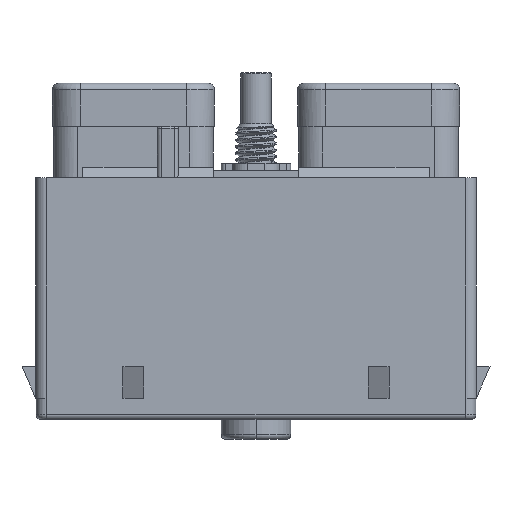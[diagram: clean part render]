
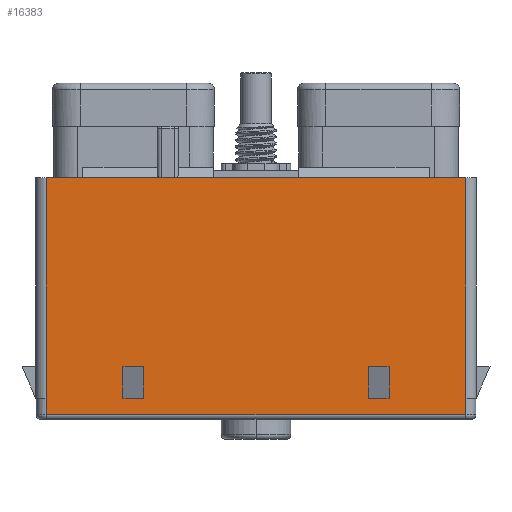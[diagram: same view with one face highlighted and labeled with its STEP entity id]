
A CAD part, front view. The second image highlights one B-rep face of the part: STEP entity #16383.
In plain terms, the highlighted planar face has unit normal (0, -1, 0).
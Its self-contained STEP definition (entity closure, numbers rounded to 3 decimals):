
#133=DIRECTION('',(0.,0.,1.));
#134=VECTOR('',#133,3.81);
#135=CARTESIAN_POINT('',(16.104,-14.58,-38.1));
#136=LINE('',#135,#134);
#137=DIRECTION('',(1.,0.,0.));
#138=VECTOR('',#137,2.54);
#139=CARTESIAN_POINT('',(13.564,-14.58,-34.29));
#140=LINE('',#139,#138);
#141=DIRECTION('',(0.,0.,1.));
#142=VECTOR('',#141,3.81);
#143=CARTESIAN_POINT('',(-13.564,-14.58,-38.1));
#144=LINE('',#143,#142);
#145=DIRECTION('',(1.,0.,0.));
#146=VECTOR('',#145,2.54);
#147=CARTESIAN_POINT('',(-16.104,-14.58,-34.29));
#148=LINE('',#147,#146);
#149=DIRECTION('',(-1.,0.,0.));
#150=VECTOR('',#149,50.648);
#151=CARTESIAN_POINT('',(25.324,-14.58,-40.132));
#152=LINE('',#151,#150);
#153=DIRECTION('',(0.,0.,1.));
#154=VECTOR('',#153,26.67);
#155=CARTESIAN_POINT('',(-25.4,-14.58,-38.1));
#156=LINE('',#155,#154);
#157=DIRECTION('',(0.,0.,-1.));
#158=VECTOR('',#157,26.67);
#159=CARTESIAN_POINT('',(25.4,-14.58,-11.43));
#160=LINE('',#159,#158);
#161=DIRECTION('',(0.,0.,-1.));
#162=VECTOR('',#161,2.032);
#163=CARTESIAN_POINT('',(25.324,-14.58,-38.1));
#164=LINE('',#163,#162);
#165=DIRECTION('',(0.,0.,1.));
#166=VECTOR('',#165,3.81);
#167=CARTESIAN_POINT('',(13.564,-14.58,-38.1));
#168=LINE('',#167,#166);
#197=DIRECTION('',(-1.,0.,0.));
#198=VECTOR('',#197,2.54);
#199=CARTESIAN_POINT('',(16.104,-14.58,-38.1));
#200=LINE('',#199,#198);
#205=DIRECTION('',(-1.,0.,0.));
#206=VECTOR('',#205,2.54);
#207=CARTESIAN_POINT('',(-13.564,-14.58,-38.1));
#208=LINE('',#207,#206);
#217=DIRECTION('',(0.,0.,1.));
#218=VECTOR('',#217,3.81);
#219=CARTESIAN_POINT('',(-16.104,-14.58,-38.1));
#220=LINE('',#219,#218);
#2457=DIRECTION('',(-1.,0.,0.));
#2458=VECTOR('',#2457,0.076);
#2459=CARTESIAN_POINT('',(25.4,-14.58,-38.1));
#2460=LINE('',#2459,#2458);
#2519=DIRECTION('',(1.,0.,0.));
#2520=VECTOR('',#2519,0.076);
#2521=CARTESIAN_POINT('',(-25.4,-14.58,-38.1));
#2522=LINE('',#2521,#2520);
#2675=DIRECTION('',(0.,0.,-1.));
#2676=VECTOR('',#2675,2.032);
#2677=CARTESIAN_POINT('',(-25.324,-14.58,-38.1));
#2678=LINE('',#2677,#2676);
#2799=DIRECTION('',(-1.,0.,0.));
#2800=VECTOR('',#2799,50.8);
#2801=CARTESIAN_POINT('',(25.4,-14.58,-11.43));
#2802=LINE('',#2801,#2800);
#13155=CARTESIAN_POINT('',(-25.4,-14.58,-11.43));
#13156=VERTEX_POINT('',#13155);
#13177=CARTESIAN_POINT('',(25.4,-14.58,-11.43));
#13178=VERTEX_POINT('',#13177);
#13355=CARTESIAN_POINT('',(25.4,-14.58,-38.1));
#13356=VERTEX_POINT('',#13355);
#13357=CARTESIAN_POINT('',(-25.4,-14.58,-38.1));
#13358=VERTEX_POINT('',#13357);
#13379=CARTESIAN_POINT('',(13.564,-14.58,-34.29));
#13381=VERTEX_POINT('',#13379);
#13383=CARTESIAN_POINT('',(-13.564,-14.58,-34.29));
#13385=VERTEX_POINT('',#13383);
#13387=CARTESIAN_POINT('',(16.104,-14.58,-34.29));
#13389=VERTEX_POINT('',#13387);
#13391=CARTESIAN_POINT('',(-16.104,-14.58,-34.29));
#13393=VERTEX_POINT('',#13391);
#14529=CARTESIAN_POINT('',(13.564,-14.58,-38.1));
#14530=VERTEX_POINT('',#14529);
#14531=CARTESIAN_POINT('',(-13.564,-14.58,-38.1));
#14532=VERTEX_POINT('',#14531);
#14533=CARTESIAN_POINT('',(16.104,-14.58,-38.1));
#14534=VERTEX_POINT('',#14533);
#14535=CARTESIAN_POINT('',(-16.104,-14.58,-38.1));
#14536=VERTEX_POINT('',#14535);
#14579=CARTESIAN_POINT('',(25.324,-14.58,-38.1));
#14580=VERTEX_POINT('',#14579);
#14581=CARTESIAN_POINT('',(-25.324,-14.58,-38.1));
#14582=VERTEX_POINT('',#14581);
#14695=CARTESIAN_POINT('',(25.324,-14.58,-40.132));
#14696=VERTEX_POINT('',#14695);
#14699=CARTESIAN_POINT('',(-25.324,-14.58,-40.132));
#14700=VERTEX_POINT('',#14699);
#16340=CARTESIAN_POINT('',(0.,-14.58,0.));
#16341=DIRECTION('',(0.,1.,0.));
#16342=DIRECTION('',(1.,0.,0.));
#16343=AXIS2_PLACEMENT_3D('',#16340,#16341,#16342);
#16344=PLANE('',#16343);
#16346=ORIENTED_EDGE('',*,*,#16345,.T.);
#16348=ORIENTED_EDGE('',*,*,#16347,.F.);
#16350=ORIENTED_EDGE('',*,*,#16349,.F.);
#16352=ORIENTED_EDGE('',*,*,#16351,.T.);
#16354=ORIENTED_EDGE('',*,*,#16353,.F.);
#16356=ORIENTED_EDGE('',*,*,#16355,.T.);
#16358=ORIENTED_EDGE('',*,*,#16357,.T.);
#16360=ORIENTED_EDGE('',*,*,#16359,.T.);
#16361=EDGE_LOOP('',(#16346,#16348,#16350,#16352,#16354,#16356,#16358,#16360));
#16362=FACE_OUTER_BOUND('',#16361,.F.);
#16364=ORIENTED_EDGE('',*,*,#16363,.F.);
#16366=ORIENTED_EDGE('',*,*,#16365,.F.);
#16368=ORIENTED_EDGE('',*,*,#16367,.T.);
#16370=ORIENTED_EDGE('',*,*,#16369,.F.);
#16371=EDGE_LOOP('',(#16364,#16366,#16368,#16370));
#16372=FACE_BOUND('',#16371,.F.);
#16374=ORIENTED_EDGE('',*,*,#16373,.F.);
#16376=ORIENTED_EDGE('',*,*,#16375,.F.);
#16378=ORIENTED_EDGE('',*,*,#16377,.T.);
#16380=ORIENTED_EDGE('',*,*,#16379,.F.);
#16381=EDGE_LOOP('',(#16374,#16376,#16378,#16380));
#16382=FACE_BOUND('',#16381,.F.);
#16383=ADVANCED_FACE('',(#16362,#16372,#16382),#16344,.F.);
#16345=EDGE_CURVE('',#14696,#14700,#152,.T.);
#16347=EDGE_CURVE('',#14582,#14700,#2678,.T.);
#16349=EDGE_CURVE('',#13358,#14582,#2522,.T.);
#16351=EDGE_CURVE('',#13358,#13156,#156,.T.);
#16353=EDGE_CURVE('',#13178,#13156,#2802,.T.);
#16355=EDGE_CURVE('',#13178,#13356,#160,.T.);
#16357=EDGE_CURVE('',#13356,#14580,#2460,.T.);
#16359=EDGE_CURVE('',#14580,#14696,#164,.T.);
#16363=EDGE_CURVE('',#14530,#13381,#168,.T.);
#16365=EDGE_CURVE('',#14534,#14530,#200,.T.);
#16367=EDGE_CURVE('',#14534,#13389,#136,.T.);
#16369=EDGE_CURVE('',#13381,#13389,#140,.T.);
#16373=EDGE_CURVE('',#14536,#13393,#220,.T.);
#16375=EDGE_CURVE('',#14532,#14536,#208,.T.);
#16377=EDGE_CURVE('',#14532,#13385,#144,.T.);
#16379=EDGE_CURVE('',#13393,#13385,#148,.T.);
